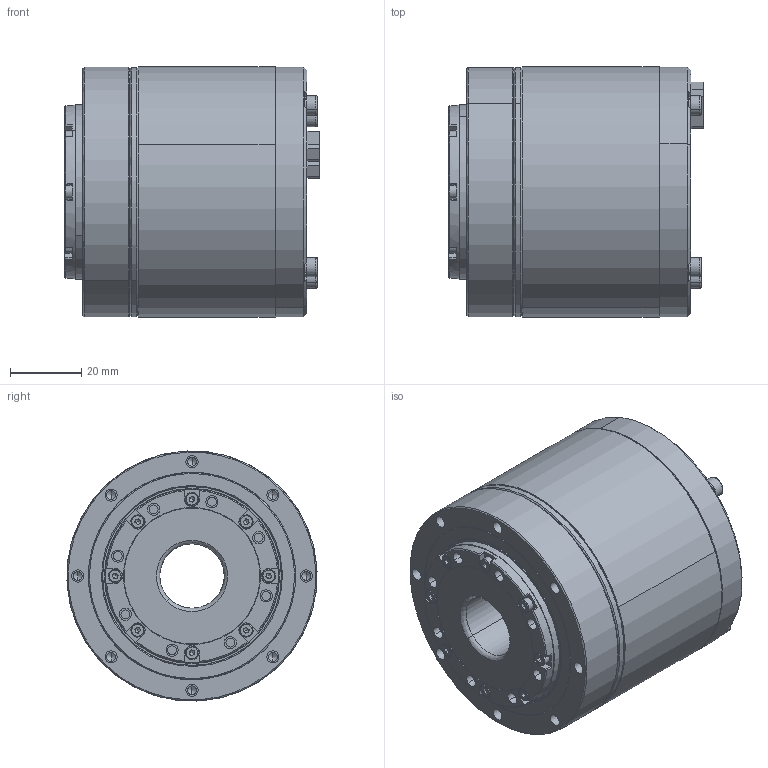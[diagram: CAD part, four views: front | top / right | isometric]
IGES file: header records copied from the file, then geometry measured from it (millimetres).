
Start section: SolidWorks IGES file using analytic representation for surfaces
Global section: file name: 87HG:\李鸿彬\00 官网需更新模型\00官网需更新模型 源文件\官网更新3D\I型\eRob70F 扁平型\eRob70F 扁平型 带刹车（V3）\eRob70F××I-B-XX-18EX_V3_MC2A.AX.XX\eRob70F××I-B-XX-18EX_V3_MC2A.AX.XX.IGS; native system: SolidWorks 2021; preprocessor: SolidWorks 2021; author: ZERO; date: 250403.104114; units: millimetre
Bounding box: 71.1 x 69.95 x 69.95 mm (x, y, z)
Volume: 227550.9 mm3; surface area: 34444.8 mm2
Topology: 1 solids, 1 shells, 2067 faces, 5608 edges, 3637 vertices
Faces by surface type: plane 1482, revolution 373, bspline 212
